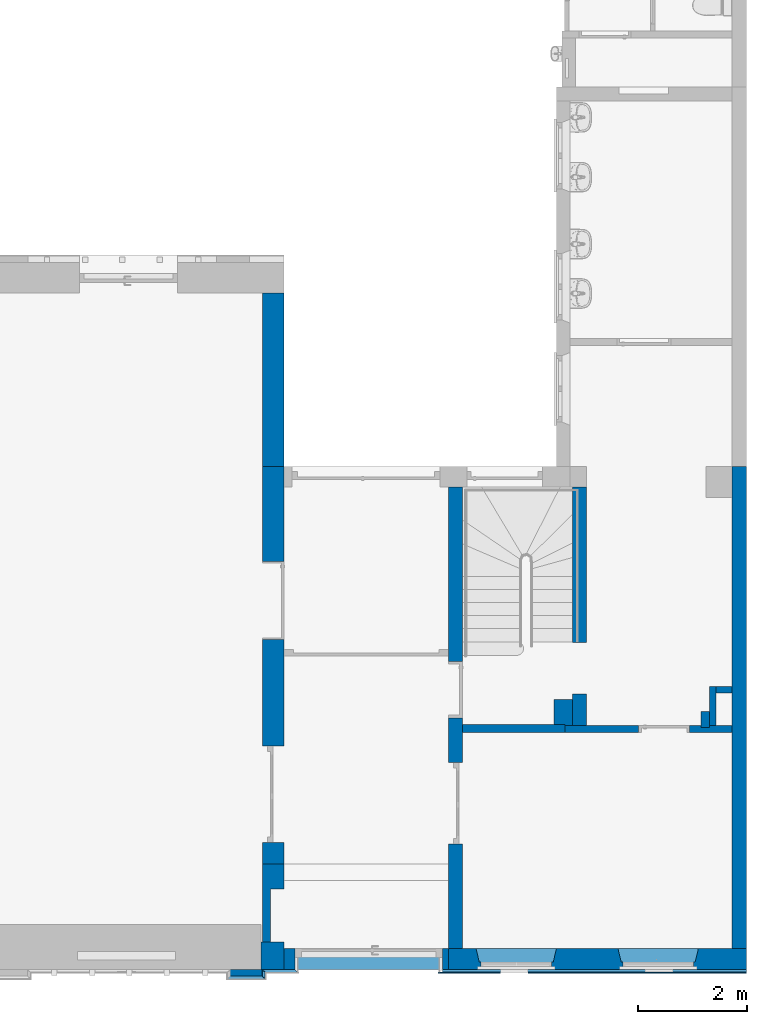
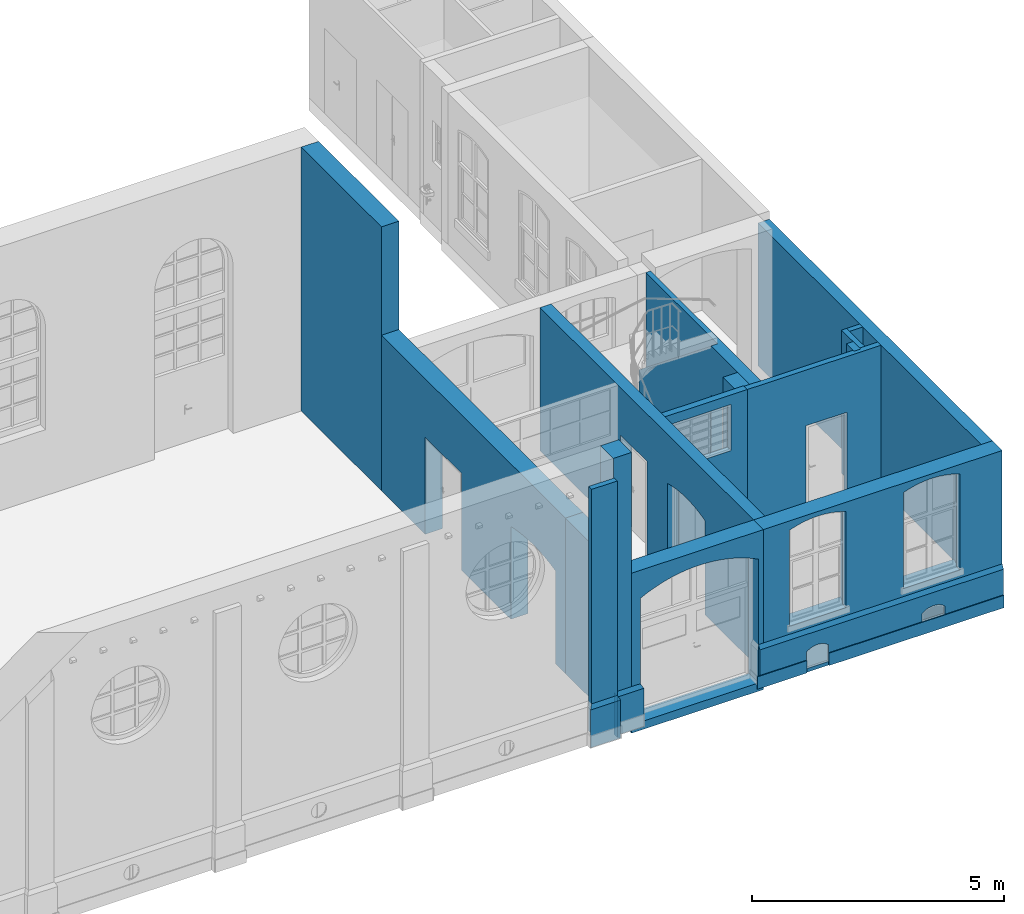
"""IFC4 building model written with IfcOpenShell, lengths in metres."""

from ifc_helpers import new_model, entity, si_unit, converted_unit, derived_unit, frame, frame_2d, origin, origin_with_axes, place, context, subcontext, project, spatial, polyline, rectangle, outline, extrude, clip, halfspace, material, layer, layer_set, layer_usage, element, save


model = new_model("IFC4")

# Units and contexts
model_context = context("Model", 3, precision=1e-05, world=origin())
body_context = subcontext(model_context, "Body", "Model", "MODEL_VIEW")
ifc_project = project(units=[si_unit("LENGTHUNIT", "METRE"), si_unit("AREAUNIT", "SQUARE_METRE"), si_unit("VOLUMEUNIT", "CUBIC_METRE"), si_unit("MASSUNIT", "GRAM", prefix="KILO"), converted_unit("PLANEANGLEUNIT", "DEGREE", entity("IfcPlaneAngleMeasure", 0.0174532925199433), si_unit("PLANEANGLEUNIT", "RADIAN"), dimensions=[0, 0, 0, 0, 0, 0, 0]), derived_unit("THERMALTRANSMITTANCEUNIT", [(si_unit("POWERUNIT", "WATT"), 1), (si_unit("THERMODYNAMICTEMPERATUREUNIT", "KELVIN"), -1), (si_unit("LENGTHUNIT", "METRE"), -2)]), derived_unit("VOLUMETRICFLOWRATEUNIT", [(si_unit("LENGTHUNIT", "METRE"), 3), (converted_unit("TIMEUNIT", "hour", entity("IfcTimeMeasure", 3600.0), si_unit("TIMEUNIT", "SECOND"), dimensions=[0, 0, 1, 0, 0, 0, 0]), -1), (si_unit("LENGTHUNIT", "METRE"), -1)])], contexts=[model_context])

# Building, storeys
building_placement = place(None, origin())
building = spatial("IfcBuilding", under=ifc_project, at=building_placement, Name="Bestandsgebäude A - Sporthalle / Wohnhaus (TB 100-499)   ANPASSEN !!!", CompositionType="ELEMENT")
storey_1_placement = place(building_placement, origin())
storey_1 = spatial("IfcBuildingStorey", under=building, at=storey_1_placement, Name="Geb. A Erdgeschoss (TB 200-249)", CompositionType="ELEMENT", Elevation=0.0)
storey_2_placement = place(storey_1_placement, origin())
storey_2 = spatial("IfcBuildingStorey", under=storey_1, at=storey_2_placement, Name="Architektur (TB 200-209)", CompositionType="PARTIAL")

# Walls
ifc_material_1 = material(Name="concrete")
ifc_layer_1 = layer(ifc_material_1, 0.4)
ifc_layer_set_1 = layer_set([ifc_layer_1])
ifc_layer_usage_1 = layer_usage(ifc_layer_set_1, "AXIS2", "POSITIVE", 0.0)
wall_1_placement = place(storey_2_placement, frame((-8.5, 9.25, 0.0), z_axis=(0.0, 0.0, 1.0), x_axis=(0.0, 1.0, 0.0)))
element("IfcWall", 1, at=wall_1_placement, inside=storey_2, material=ifc_layer_usage_1, Name="reinforced - bearing", PredefinedType="USERDEFINED", context=body_context, shape_type="SweptSolid", body=[
    extrude(rectangle(XDim=3.19, YDim=0.4, at=frame_2d((1.595, 0.2), x_axis=(1.0, 0.0))), origin_with_axes(), (0.0, 0.0, 1.0), 6.4),
])
ifc_material_2 = material(Name="concrete")
ifc_layer_2 = layer(ifc_material_2, 0.51)
ifc_layer_set_2 = layer_set([ifc_layer_2])
ifc_layer_usage_2 = layer_usage(ifc_layer_set_2, "AXIS2", "POSITIVE", 0.0)
wall_2_placement = place(storey_2_placement, frame((-8.92000000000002, 0.0, 0.0), z_axis=(0.0, 0.0, 1.0), x_axis=(1.0, -6.69258999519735e-16, 0.0)))
element("IfcWall", 2, at=wall_2_placement, inside=storey_2, material=ifc_layer_usage_2, Name="reinforced - bearing", PredefinedType="USERDEFINED", context=body_context, shape_type="SweptSolid", body=[
    extrude(rectangle(XDim=0.420000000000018, YDim=0.51, at=frame_2d((0.210000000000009, 0.255), x_axis=(1.0, 0.0))), origin_with_axes(), (0.0, 0.0, 1.0), 6.4),
])

# Wall, openings
ifc_material_3 = material(Name="concrete")
ifc_layer_3 = layer(ifc_material_3, 0.4)
ifc_layer_set_3 = layer_set([ifc_layer_3])
ifc_layer_usage_3 = layer_usage(ifc_layer_set_3, "AXIS2", "POSITIVE", 0.0)
wall_3_placement = place(storey_2_placement, frame((-8.5, 1.94, 0.0), z_axis=(0.0, 0.0, 1.0), x_axis=(0.0, 1.0, 0.0)))
wall_3 = element("IfcWall", 3, at=wall_3_placement, inside=storey_2, material=ifc_layer_usage_3, Name="reinforced - bearing", PredefinedType="USERDEFINED", context=body_context, shape_type="SweptSolid", body=[
    extrude(rectangle(XDim=7.31, YDim=0.4, at=frame_2d((3.655, 0.2), x_axis=(1.0, 0.0))), origin_with_axes(), (0.0, 0.0, 1.0), 3.77),
])
opening_1_placement = place(wall_3_placement, frame((5.56999999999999, 0.4, 0.0), z_axis=(0.0, -1.0, 0.0), x_axis=(0.0, 0.0, 1.0)))
element("IfcOpeningElement", 4, at=opening_1_placement, cuts=wall_3, Name="Door opening", PredefinedType="OPENING", context=body_context, shape_type="SweptSolid", body=[
    extrude(outline(polyline([(2.35, 1.44), (2.35, 0.0), (0.0, 0.0), (0.0, 1.44), (2.35, 1.44)])), origin_with_axes(), (0.0, 0.0, 1.0), 0.4),
])
opening_2_placement = place(wall_3_placement, frame((2.17, 0.4, 0.0), z_axis=(0.0, -1.0, 0.0), x_axis=(0.0, 0.0, 1.0)))
element("IfcOpeningElement", 5, at=opening_2_placement, cuts=wall_3, Name="Door opening", PredefinedType="OPENING", context=body_context, shape_type="SweptSolid", body=[
    extrude(outline(polyline([(2.25, 1.77), (2.2628414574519, 1.71190189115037), (2.27480989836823, 1.65361767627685), (2.28590262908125, 1.5951604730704), (2.29611715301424, 1.5365434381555), (2.30545117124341, 1.47777976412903), (2.31390258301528, 1.41888267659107), (2.32146948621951, 1.35986543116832), (2.32815017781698, 1.30074131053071), (2.33394315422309, 1.24152362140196), (2.33884711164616, 1.1822256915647), (2.34286094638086, 1.12286086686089), (2.34598375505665, 1.06344250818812), (2.34821483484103, 1.00398398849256), (2.3495536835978, 0.944498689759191), (2.35, 0.884999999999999), (2.3495536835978, 0.825501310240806), (2.34821483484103, 0.766016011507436), (2.34598375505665, 0.706557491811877), (2.34286094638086, 0.647139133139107), (2.33884711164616, 0.587774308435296), (2.33394315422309, 0.528476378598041), (2.32815017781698, 0.469258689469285), (2.32146948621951, 0.410134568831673), (2.31390258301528, 0.351117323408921), (2.30545117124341, 0.292220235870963), (2.29611715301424, 0.233456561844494), (2.28590262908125, 0.174839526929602), (2.27480989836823, 0.116382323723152), (2.2628414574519, 0.0580981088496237), (2.25, 0.0), (0.0, 0.0), (0.0, 1.77), (2.25, 1.77)])), origin_with_axes(), (0.0, 0.0, 1.0), 0.4),
])

# Wall, opening
ifc_material_4 = material(Name="concrete")
ifc_layer_4 = layer(ifc_material_4, 0.4)
ifc_layer_set_4 = layer_set([ifc_layer_4])
ifc_layer_usage_4 = layer_usage(ifc_layer_set_4, "AXIS2", "POSITIVE", 0.0)
wall_4_placement = place(storey_2_placement, frame((-8.5, 0.51, 0.0), z_axis=(0.0, 0.0, 1.0), x_axis=(0.0, 1.0, 0.0)))
wall_4 = element("IfcWall", 6, at=wall_4_placement, inside=storey_2, material=ifc_layer_usage_4, Name="reinforced - bearing", PredefinedType="USERDEFINED", context=body_context, shape_type="SweptSolid", body=[
    extrude(rectangle(XDim=1.43, YDim=0.4, at=frame_2d((0.715, 0.2), x_axis=(1.0, 0.0))), origin_with_axes(), (0.0, 0.0, 1.0), 3.77),
])
opening_3_placement = place(wall_4_placement, frame((0.0, 0.0, 0.0), z_axis=(0.0, 1.0, 0.0), x_axis=(0.0, 0.0, 1.0)))
element("IfcOpeningElement", 7, at=opening_3_placement, cuts=wall_4, Name="Wall Niche", ObjectType="Opening", context=body_context, shape_type="SweptSolid", body=[
    extrude(outline(polyline([(2.4, 0.97), (2.4, 0.0), (0.0, 0.0), (0.0, 0.97), (2.4, 0.97)])), origin_with_axes(), (0.0, 0.0, 1.0), 0.25),
])

# Wall, openings
ifc_material_5 = material(Name="masonry")
ifc_layer_5 = layer(ifc_material_5, 0.26)
ifc_layer_set_5 = layer_set([ifc_layer_5])
ifc_layer_usage_5 = layer_usage(ifc_layer_set_5, "AXIS2", "POSITIVE", 0.0)
wall_5_placement = place(storey_2_placement, frame((-5.48, 8.88, 0.0), z_axis=(0.0, 0.0, 1.0), x_axis=(0.0, -1.0, 0.0)))
wall_5 = element("IfcWall", 8, at=wall_5_placement, inside=storey_2, material=ifc_layer_usage_5, Name="masonry load-bearing", PredefinedType="USERDEFINED", context=body_context, shape_type="SweptSolid", body=[
    extrude(rectangle(XDim=8.49, YDim=0.26, at=frame_2d((4.245, 0.13), x_axis=(1.0, 0.0))), origin_with_axes(), (0.0, 0.0, 1.0), 3.47),
])
opening_4_placement = place(wall_5_placement, frame((3.21, 0.0, 0.0), z_axis=(0.0, 1.0, 0.0), x_axis=(0.0, 0.0, 1.0)))
element("IfcOpeningElement", 9, at=opening_4_placement, cuts=wall_5, Name="Door opening", PredefinedType="OPENING", context=body_context, shape_type="SweptSolid", body=[
    extrude(outline(polyline([(2.32, 1.04), (2.32, 0.0), (0.0, 0.0), (0.0, 1.04), (2.32, 1.04)])), origin_with_axes(), (0.0, 0.0, 1.0), 0.26),
])
opening_5_placement = place(wall_5_placement, frame((5.07, 0.0, 0.0), z_axis=(0.0, 1.0, 0.0), x_axis=(0.0, 0.0, 1.0)))
element("IfcOpeningElement", 10, at=opening_5_placement, cuts=wall_5, Name="Door opening", PredefinedType="OPENING", context=body_context, shape_type="SweptSolid", body=[
    extrude(outline(polyline([(2.28, 1.5), (2.29282303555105, 1.45106226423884), (2.30477921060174, 1.40190555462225), (2.31586479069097, 1.35254522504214), (2.32607631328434, 1.30299669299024), (2.33541058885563, 1.25327543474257), (2.34386470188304, 1.20339698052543), (2.35143601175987, 1.1533769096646), (2.35812215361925, 1.10323084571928), (2.36392103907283, 1.05297445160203), (2.36883085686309, 1.00262342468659), (2.37285007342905, 0.952193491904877), (2.3759774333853, 0.901700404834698), (2.37821195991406, 0.851159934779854), (2.37955295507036, 0.800587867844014), (2.38, 0.75), (2.37955295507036, 0.699412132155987), (2.37821195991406, 0.648840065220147), (2.3759774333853, 0.598299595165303), (2.37285007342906, 0.547806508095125), (2.36883085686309, 0.497376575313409), (2.36392103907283, 0.447025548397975), (2.35812215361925, 0.396769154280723), (2.35143601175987, 0.346623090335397), (2.34386470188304, 0.296603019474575), (2.33541058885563, 0.246724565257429), (2.32607631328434, 0.197003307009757), (2.31586479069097, 0.147454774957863), (2.30477921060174, 0.098094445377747), (2.29282303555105, 0.0489377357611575), (2.28, 0.0), (0.0, 0.0), (0.0, 1.5), (2.28, 1.5)])), origin_with_axes(), (0.0, 0.0, 1.0), 0.26),
])

# Wall, opening
ifc_material_6 = material(Name="masonry")
ifc_layer_6 = layer(ifc_material_6, 0.15)
ifc_layer_set_6 = layer_set([ifc_layer_6])
ifc_layer_usage_6 = layer_usage(ifc_layer_set_6, "AXIS2", "POSITIVE", 0.0)
wall_6_placement = place(storey_2_placement, frame((-5.21999999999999, 4.36, 0.0)))
wall_6 = element("IfcWall", 11, at=wall_6_placement, inside=storey_2, material=ifc_layer_usage_6, Name="masonry load-bearing", PredefinedType="USERDEFINED", context=body_context, shape_type="SweptSolid", body=[
    extrude(rectangle(XDim=1.89, YDim=0.15, at=frame_2d((0.945, 0.075), x_axis=(1.0, 0.0))), origin_with_axes(), (0.0, 0.0, 1.0), 3.47),
])
opening_6_placement = place(wall_6_placement, frame((1.51956840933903, 0.15, 2.12), z_axis=(0.0, -1.0, 0.0), x_axis=(0.0, 0.0, 1.0)))
element("IfcOpeningElement", 12, at=opening_6_placement, cuts=wall_6, Name="Window opening", PredefinedType="OPENING", context=body_context, shape_type="SweptSolid", body=[
    extrude(outline(polyline([(1.12, 1.35), (1.12, 0.0), (0.0, 0.0), (0.0, 1.35), (1.12, 1.35)])), origin_with_axes(), (0.0, 0.0, 1.0), 0.15),
])

# Wall
ifc_material_7 = material(Name="masonry")
ifc_layer_7 = layer(ifc_material_7, 0.34)
ifc_layer_set_7 = layer_set([ifc_layer_7])
ifc_layer_usage_7 = layer_usage(ifc_layer_set_7, "AXIS2", "POSITIVE", 0.0)
wall_7_placement = place(storey_2_placement, frame((-3.19999999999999, 4.49, 0.0), z_axis=(0.0, 0.0, 1.0), x_axis=(-1.51582450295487e-14, 1.0, 0.0)))
element("IfcWall", 13, at=wall_7_placement, inside=storey_2, material=ifc_layer_usage_7, Name="masonry load-bearing", PredefinedType="USERDEFINED", context=body_context, shape_type="SweptSolid", body=[
    extrude(outline(polyline([(0.0, -0.340000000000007), (0.479999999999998, -0.340000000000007), (0.479999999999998, 0.0), (0.02, 0.0), (0.0199999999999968, -0.210000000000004), (0.0, -0.210000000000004), (0.0, -0.340000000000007)])), frame((0.0, 0.340000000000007, 0.0), z_axis=(0.0, 0.0, 1.0), x_axis=(1.0, 0.0, 0.0)), (0.0, 0.0, 1.0), 3.47),
])

# Wall, opening
ifc_material_8 = material(Name="masonry")
ifc_layer_8 = layer(ifc_material_8, 0.13)
ifc_layer_set_8 = layer_set([ifc_layer_8])
ifc_layer_usage_8 = layer_usage(ifc_layer_set_8, "AXIS2", "POSITIVE", 0.0)
wall_8_placement = place(storey_2_placement, frame((-3.32999999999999, 4.36, 0.0)))
wall_8 = element("IfcWall", 14, at=wall_8_placement, inside=storey_2, material=ifc_layer_usage_8, Name="masonry load-bearing", PredefinedType="USERDEFINED", context=body_context, shape_type="SweptSolid", body=[
    extrude(outline(polyline([(0.0, 0.0), (3.06999999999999, 0.0), (3.06999999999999, 0.13), (2.64999999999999, 0.13), (2.64999999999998, 0.0900000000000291), (2.49999999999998, 0.0900000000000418), (2.49999999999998, 0.13), (0.0, 0.13), (0.0, 0.0)])), origin_with_axes(), (0.0, 0.0, 1.0), 3.47),
])
opening_7_placement = place(wall_8_placement, frame((1.35000000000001, 0.0, 0.0), z_axis=(0.0, 1.0, 0.0), x_axis=(0.0, 0.0, 1.0)))
element("IfcOpeningElement", 15, at=opening_7_placement, cuts=wall_8, Name="Door opening", PredefinedType="OPENING", context=body_context, shape_type="SweptSolid", body=[
    extrude(outline(polyline([(2.12, 0.94), (2.12, 0.0), (0.0, 0.0), (0.0, 0.94), (2.12, 0.94)])), origin_with_axes(), (0.0, 0.0, 1.0), 0.13),
])

# Walls
ifc_material_9 = material(Name="masonry")
ifc_layer_9 = layer(ifc_material_9, 0.15)
ifc_layer_set_9 = layer_set([ifc_layer_9])
ifc_layer_usage_9 = layer_usage(ifc_layer_set_9, "AXIS2", "POSITIVE", 0.0)
wall_9_placement = place(storey_2_placement, frame((-0.68000000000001, 4.45000000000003, 0.0), z_axis=(0.0, 0.0, 1.0), x_axis=(8.1854523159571e-14, 1.0, 0.0)))
element("IfcWall", 16, at=wall_9_placement, inside=storey_2, material=ifc_layer_usage_9, Name="masonry load-bearing", PredefinedType="USERDEFINED", context=body_context, shape_type="SweptSolid", body=[
    extrude(rectangle(XDim=0.299999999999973, YDim=0.15, at=frame_2d((0.149999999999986, 0.075), x_axis=(1.0, 0.0))), origin_with_axes(), (0.0, 0.0, 1.0), 3.47),
])
ifc_material_10 = material(Name="masonry")
ifc_layer_10 = layer(ifc_material_10, 0.12)
ifc_layer_set_10 = layer_set([ifc_layer_10])
ifc_layer_usage_10 = layer_usage(ifc_layer_set_10, "AXIS2", "POSITIVE", 0.0)
wall_10_placement = place(storey_2_placement, frame((-0.680000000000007, 5.21, 0.0), z_axis=(0.0, 0.0, 1.0), x_axis=(-1.57898385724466e-16, -1.0, 0.0)))
element("IfcWall", 17, at=wall_10_placement, inside=storey_2, material=ifc_layer_usage_10, Name="masonry load-bearing", PredefinedType="USERDEFINED", context=body_context, shape_type="SweptSolid", body=[
    extrude(rectangle(XDim=0.720000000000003, YDim=0.12, at=frame_2d((0.360000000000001, 0.06), x_axis=(1.0, 0.0))), origin_with_axes(), (0.0, 0.0, 1.0), 3.47),
])
ifc_material_11 = material(Name="masonry")
ifc_layer_11 = layer(ifc_material_11, 0.12)
ifc_layer_set_11 = layer_set([ifc_layer_11])
ifc_layer_usage_11 = layer_usage(ifc_layer_set_11, "AXIS2", "POSITIVE", 0.0)
wall_11_placement = place(storey_2_placement, frame((-0.260000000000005, 5.21, 0.0), z_axis=(0.0, 0.0, 1.0), x_axis=(-1.0, 0.0, 0.0)))
element("IfcWall", 18, at=wall_11_placement, inside=storey_2, material=ifc_layer_usage_11, Name="masonry load-bearing", PredefinedType="USERDEFINED", context=body_context, shape_type="SweptSolid", body=[
    extrude(rectangle(XDim=0.300000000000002, YDim=0.12, at=frame_2d((0.150000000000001, 0.06), x_axis=(1.0, 0.0))), origin_with_axes(), (0.0, 0.0, 1.0), 3.47),
])

# Wall, openings
ifc_material_12 = material(Name="masonry")
ifc_layer_12 = layer(ifc_material_12, 0.26)
ifc_layer_set_12 = layer_set([ifc_layer_12])
ifc_layer_usage_12 = layer_usage(ifc_layer_set_12, "AXIS2", "POSITIVE", 0.0)
wall_12_placement = place(storey_2_placement, frame((-2.93999999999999, 4.49, 0.0), z_axis=(0.0, 0.0, 1.0), x_axis=(-3.10761287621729e-15, 1.0, 0.0)))
wall_12 = element("IfcWall", 19, at=wall_12_placement, inside=storey_2, material=ifc_layer_usage_12, Name="masonry load-bearing", PredefinedType="USERDEFINED", context=body_context, shape_type="SweptSolid", body=[
    extrude(rectangle(XDim=4.39, YDim=0.26, at=frame_2d((2.195, 0.13), x_axis=(1.0, 0.0))), origin_with_axes(), (0.0, 0.0, 1.0), 3.47),
])
opening_8_placement = place(wall_12_placement, frame((4.39, 0.26, 1.16625000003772), z_axis=(-6.06329801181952e-15, -1.0, 0.0), x_axis=(0.0, 0.0, 1.0)))
element("IfcOpeningElement", 20, at=opening_8_placement, cuts=wall_12, Name="Wall Niche", ObjectType="Opening", context=body_context, shape_type="SweptSolid", body=[
    extrude(outline(polyline([(2.50374999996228, 2.85), (2.50374999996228, 0.0), (0.0, 0.0), (2.29374999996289, 2.85), (2.50374999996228, 2.85)])), origin_with_axes(), (0.0, 0.0, 1.0), 0.15),
])
opening_9_placement = place(wall_12_placement, frame((1.53, 0.26, 0.0), z_axis=(0.0, -1.0, 0.0), x_axis=(0.0, 0.0, 1.0)))
element("IfcOpeningElement", 21, at=opening_9_placement, cuts=wall_12, Name="Door opening", PredefinedType="OPENING", context=body_context, shape_type="SweptSolid", body=[
    extrude(outline(polyline([(2.28, 0.949999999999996), (2.28, 0.0), (0.0, 0.0), (0.0, 0.949999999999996), (2.28, 0.949999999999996)])), origin_with_axes(), (0.0, 0.0, 1.0), 0.26),
])

# Walls
ifc_material_13 = material(Name="concrete")
ifc_layer_13 = layer(ifc_material_13, 0.05)
ifc_layer_set_13 = layer_set([ifc_layer_13])
ifc_layer_usage_13 = layer_usage(ifc_layer_set_13, "AXIS2", "POSITIVE", 0.0)
wall_13_placement = place(storey_2_placement, frame((-8.90000000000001, 0.0, -0.3), z_axis=(0.0, 0.0, 1.0), x_axis=(0.0, -1.0, 0.0)))
element("IfcWall", 22, at=wall_13_placement, inside=storey_2, material=ifc_layer_usage_13, Name="reinforced - bearing", PredefinedType="USERDEFINED", context=body_context, shape_type="Clipping", body=[
    clip(extrude(outline(polyline([(-0.170000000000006, 0.0), (-0.050000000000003, 0.0), (0.0, 0.05), (-0.119999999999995, 0.05), (-0.170000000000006, 0.0)])), frame((0.170000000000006, 0.0, 0.0), z_axis=(0.0, 0.0, 1.0), x_axis=(1.0, 0.0, 0.0)), (0.0, 0.0, 1.0), 1.01999999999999), halfspace(frame((0.0850000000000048, 0.025, 0.969999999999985), z_axis=(8.30424224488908e-16, -0.894427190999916, -0.447213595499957), x_axis=(1.0, 0.0, 1.89478062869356e-15)), True)),
])
ifc_material_14 = material(Name="concrete")
ifc_layer_14 = layer(ifc_material_14, 0.05)
ifc_layer_set_14 = layer_set([ifc_layer_14])
ifc_layer_usage_14 = layer_usage(ifc_layer_set_14, "AXIS2", "POSITIVE", 0.0)
wall_14_placement = place(storey_2_placement, frame((-8.90000000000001, -0.120000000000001, -0.3), z_axis=(0.0, 0.0, 1.0), x_axis=(-1.0, 5.05810083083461e-16, 0.0)))
element("IfcWall", 23, at=wall_14_placement, inside=storey_2, material=ifc_layer_usage_14, Name="reinforced - bearing", PredefinedType="USERDEFINED", context=body_context, shape_type="Clipping", body=[
    clip(extrude(outline(polyline([(-0.64, -0.0500000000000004), (-0.05, -0.0500000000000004), (0.0, 0.0), (-0.689999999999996, 0.0), (-0.64, -0.0500000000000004)])), frame((0.64, 0.0500000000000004, 0.0), z_axis=(0.0, 0.0, 1.0), x_axis=(1.0, 0.0, 0.0)), (0.0, 0.0, 1.0), 1.02), halfspace(frame((0.295, 0.025, 0.97), z_axis=(3.63237665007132e-16, -0.894427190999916, -0.447213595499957), x_axis=(1.0, 0.0, 9.63447777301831e-16)), True)),
])
ifc_material_15 = material(Name="concrete")
ifc_layer_15 = layer(ifc_material_15, 0.12)
ifc_layer_set_15 = layer_set([ifc_layer_15])
ifc_layer_usage_15 = layer_usage(ifc_layer_set_15, "AXIS2", "POSITIVE", 0.0)
wall_15_placement = place(storey_2_placement, frame((-9.49000000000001, -0.119999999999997, 0.0)))
element("IfcWall", 24, at=wall_15_placement, inside=storey_2, material=ifc_layer_usage_15, Name="reinforced - bearing", PredefinedType="USERDEFINED", context=body_context, shape_type="SweptSolid", body=[
    extrude(rectangle(XDim=0.590000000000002, YDim=0.12, at=frame_2d((0.295000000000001, 0.06), x_axis=(1.0, 0.0))), origin_with_axes(), (0.0, 0.0, 1.0), 5.92),
])
ifc_material_16 = material(Name="concrete")
ifc_layer_16 = layer(ifc_material_16, 0.05)
ifc_layer_set_16 = layer_set([ifc_layer_16])
ifc_layer_usage_16 = layer_usage(ifc_layer_set_16, "AXIS2", "POSITIVE", 0.0)
wall_16_placement = place(storey_2_placement, frame((-8.3, 0.0, -0.3), z_axis=(0.0, 0.0, 1.0), x_axis=(-1.0, 4.89858719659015e-16, 0.0)))
element("IfcWall", 25, at=wall_16_placement, inside=storey_2, material=ifc_layer_usage_16, Name="reinforced - bearing", PredefinedType="USERDEFINED", context=body_context, shape_type="Clipping", body=[
    clip(extrude(outline(polyline([(-0.600000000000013, -0.0500000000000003), (0.0, -0.0500000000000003), (-0.0500000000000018, 0.0), (-0.649999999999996, 0.0), (-0.600000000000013, -0.0500000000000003)])), frame((0.600000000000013, 0.0500000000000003, 0.0), z_axis=(0.0, 0.0, 1.0), x_axis=(1.0, 0.0, 0.0)), (0.0, 0.0, 1.0), 1.02000000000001), halfspace(frame((0.275000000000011, 0.025, 0.970000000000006), z_axis=(6.8065013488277e-16, -0.894427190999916, -0.447213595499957), x_axis=(1.0, -1.60000590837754e-18, 1.51582450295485e-15)), True)),
])
ifc_material_17 = material(Name="concrete")
ifc_layer_17 = layer(ifc_material_17, 0.26)
ifc_layer_set_17 = layer_set([ifc_layer_17])
ifc_layer_usage_17 = layer_usage(ifc_layer_set_17, "AXIS2", "POSITIVE", 0.0)
wall_17_placement = place(storey_2_placement, frame((0.0, 0.389999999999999, 0.0), z_axis=(0.0, 0.0, 1.0), x_axis=(2.4492935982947e-16, 1.0, 0.0)))
element("IfcWall", 26, at=wall_17_placement, inside=storey_2, material=ifc_layer_usage_17, Name="reinforced - bearing", PredefinedType="USERDEFINED", context=body_context, shape_type="SweptSolid", body=[
    extrude(rectangle(XDim=8.86, YDim=0.26, at=frame_2d((4.43, 0.13), x_axis=(1.0, 0.0))), origin_with_axes(), (0.0, 0.0, 1.0), 3.47),
])

# Wall, opening
ifc_material_18 = material(Name="concrete")
ifc_layer_18 = layer(ifc_material_18, 0.39)
ifc_layer_set_18 = layer_set([ifc_layer_18])
ifc_layer_usage_18 = layer_usage(ifc_layer_set_18, "AXIS2", "POSITIVE", 0.0)
wall_18_placement = place(storey_2_placement, frame((-8.5, 0.0, -0.41), z_axis=(0.0, 0.0, 1.0), x_axis=(1.0, -3.67027395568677e-16, 0.0)))
wall_18 = element("IfcWall", 27, at=wall_18_placement, inside=storey_2, material=ifc_layer_usage_18, Name="reinforced - bearing", PredefinedType="USERDEFINED", context=body_context, shape_type="SweptSolid", body=[
    extrude(rectangle(XDim=3.02, YDim=0.39, at=frame_2d((1.51, 0.195), x_axis=(1.0, 0.0))), origin_with_axes(), (0.0, 0.0, 1.0), 3.88),
])
opening_10_placement = place(wall_18_placement, frame((0.200000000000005, 0.0, 0.2), z_axis=(-3.64380890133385e-16, 1.0, 0.0), x_axis=(0.0, 0.0, 1.0)))
element("IfcOpeningElement", 28, at=opening_10_placement, cuts=wall_18, Name="Door opening", PredefinedType="OPENING", context=body_context, shape_type="SweptSolid", body=[
    extrude(outline(polyline([(3.0, 2.71), (3.04182511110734, 2.62597406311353), (3.08095304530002, 2.54065874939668), (3.1173441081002, 2.45414060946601), (3.15096138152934, 2.36650741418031), (3.18177076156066, 2.27784806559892), (3.20974099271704, 2.18825250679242), (3.23484369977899, 2.09781163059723), (3.25705341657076, 2.00661718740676), (3.27634761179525, 1.91476169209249), (3.2927067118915, 1.82233833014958), (3.30611412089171, 1.72944086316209), (3.31655623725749, 1.63616353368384), (3.32402246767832, 1.54260096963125), (3.32850523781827, 1.44884808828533), (3.33, 1.355), (3.32850523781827, 1.26115191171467), (3.32402246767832, 1.16739903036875), (3.31655623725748, 1.07383646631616), (3.30611412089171, 0.980559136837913), (3.2927067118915, 0.887661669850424), (3.27634761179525, 0.795238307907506), (3.25705341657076, 0.703382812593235), (3.23484369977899, 0.612188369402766), (3.20974099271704, 0.521747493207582), (3.18177076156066, 0.43215193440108), (3.15096138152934, 0.343492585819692), (3.1173441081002, 0.255859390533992), (3.08095304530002, 0.169341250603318), (3.04182511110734, 0.0840259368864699), (3.0, 0.0), (0.0, 0.0), (0.0, 2.71), (3.0, 2.71)])), origin_with_axes(), (0.0, 0.0, 1.0), 0.39),
])

# Wall, openings
ifc_material_19 = material(Name="concrete")
ifc_layer_19 = layer(ifc_material_19, 0.39)
ifc_layer_set_19 = layer_set([ifc_layer_19])
ifc_layer_usage_19 = layer_usage(ifc_layer_set_19, "AXIS2", "POSITIVE", 0.0)
wall_19_placement = place(storey_2_placement, frame((-5.48, 0.0, -0.21), z_axis=(0.0, 0.0, 1.0), x_axis=(1.0, -3.67027395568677e-16, 0.0)))
wall_19 = element("IfcWall", 29, at=wall_19_placement, inside=storey_2, material=ifc_layer_usage_19, Name="reinforced - bearing", PredefinedType="USERDEFINED", context=body_context, shape_type="SweptSolid", body=[
    extrude(rectangle(XDim=5.47999999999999, YDim=0.39, at=frame_2d((2.74, 0.195), x_axis=(1.0, 0.0))), origin_with_axes(), (0.0, 0.0, 1.0), 3.68),
])
opening_11_placement = place(wall_19_placement, frame((3.21, 0.0, 1.12), z_axis=(0.0, 1.0, 0.0), x_axis=(0.0, 0.0, 1.0)))
element("IfcOpeningElement", 30, at=opening_11_placement, cuts=wall_19, Name="Window opening", PredefinedType="OPENING", context=body_context, shape_type="SweptSolid", body=[
    extrude(outline(polyline([(2.33, 1.3), (2.34531656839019, 1.25842115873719), (2.35961661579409, 1.21648184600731), (2.3728916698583, 1.17420690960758), (2.38513386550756, 1.1316213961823), (2.3963359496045, 1.08875053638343), (2.40649128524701, 1.04561972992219), (2.41559385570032, 1.00225453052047), (2.42363826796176, 0.958680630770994), (2.43061975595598, 0.914923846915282), (2.43653418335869, 0.871010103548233), (2.44137804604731, 0.826965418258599), (2.44514847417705, 0.782815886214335), (2.44784323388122, 0.738587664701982), (2.44946072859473, 0.694306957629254), (2.45, 0.65), (2.44946072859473, 0.605693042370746), (2.44784323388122, 0.561412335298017), (2.44514847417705, 0.517184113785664), (2.44137804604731, 0.4730345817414), (2.43653418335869, 0.428989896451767), (2.43061975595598, 0.385076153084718), (2.42363826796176, 0.341319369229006), (2.41559385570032, 0.297745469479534), (2.40649128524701, 0.254380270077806), (2.3963359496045, 0.211249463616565), (2.38513386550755, 0.168378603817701), (2.3728916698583, 0.125793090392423), (2.35961661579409, 0.0835181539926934), (2.34531656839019, 0.0415788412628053), (2.33, 0.0), (0.0, 0.0), (0.0, 1.3), (2.33, 1.3)])), origin_with_axes(), (0.0, 0.0, 1.0), 0.39),
])
opening_12_placement = place(wall_19_placement, frame((0.599999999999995, 0.0, 1.12), z_axis=(-2.91504712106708e-16, 1.0, 0.0), x_axis=(0.0, 0.0, 1.0)))
element("IfcOpeningElement", 31, at=opening_12_placement, cuts=wall_19, Name="Window opening", PredefinedType="OPENING", context=body_context, shape_type="SweptSolid", body=[
    extrude(outline(polyline([(2.33, 1.3), (2.34531656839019, 1.25842115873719), (2.35961661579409, 1.21648184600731), (2.3728916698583, 1.17420690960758), (2.38513386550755, 1.1316213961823), (2.3963359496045, 1.08875053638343), (2.40649128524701, 1.04561972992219), (2.41559385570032, 1.00225453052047), (2.42363826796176, 0.958680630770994), (2.43061975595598, 0.914923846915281), (2.43653418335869, 0.871010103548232), (2.44137804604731, 0.826965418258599), (2.44514847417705, 0.782815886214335), (2.44784323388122, 0.738587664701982), (2.44946072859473, 0.694306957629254), (2.45, 0.649999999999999), (2.44946072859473, 0.605693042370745), (2.44784323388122, 0.561412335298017), (2.44514847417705, 0.517184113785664), (2.44137804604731, 0.473034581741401), (2.43653418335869, 0.428989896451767), (2.43061975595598, 0.385076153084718), (2.42363826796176, 0.341319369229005), (2.41559385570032, 0.297745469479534), (2.40649128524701, 0.254380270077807), (2.3963359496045, 0.211249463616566), (2.38513386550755, 0.1683786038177), (2.3728916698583, 0.125793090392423), (2.35961661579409, 0.0835181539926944), (2.34531656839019, 0.0415788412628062), (2.33, 0.0), (0.0, 0.0), (0.0, 1.3), (2.33, 1.3)])), origin_with_axes(), (0.0, 0.0, 1.0), 0.39),
])
opening_13_placement = place(wall_19_placement, frame((4.6, 0.39, 1.12), z_axis=(0.0, 0.0, 1.0), x_axis=(-1.0, -3.84077154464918e-17, 0.0)))
element("IfcOpeningElement", 32, at=opening_13_placement, cuts=wall_19, Name="Wall Niche", ObjectType="Opening", context=body_context, shape_type="SweptSolid", body=[
    extrude(outline(polyline([(0.0, 0.0), (1.48, 0.0), (1.42, 0.24999999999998), (0.0600000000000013, 0.24999999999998), (0.0, 0.0)])), origin_with_axes(), (0.0, 0.0, 1.0), 2.45),
])
opening_14_placement = place(wall_19_placement, frame((1.99, 0.39, 1.12), z_axis=(0.0, 0.0, 1.0), x_axis=(-1.0, 0.0, 0.0)))
element("IfcOpeningElement", 33, at=opening_14_placement, cuts=wall_19, Name="Wall Niche", ObjectType="Opening", context=body_context, shape_type="SweptSolid", body=[
    extrude(outline(polyline([(0.0, 0.0), (1.48, 0.0), (1.42, 0.249999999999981), (0.0600000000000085, 0.249999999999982), (0.0, 0.0)])), origin_with_axes(), (0.0, 0.0, 1.0), 2.45),
])

# Wall
ifc_material_20 = material(Name="concrete")
ifc_layer_20 = layer(ifc_material_20, 0.02)
ifc_layer_set_20 = layer_set([ifc_layer_20])
ifc_layer_usage_20 = layer_usage(ifc_layer_set_20, "AXIS2", "POSITIVE", 0.0)
wall_20_placement = place(storey_2_placement, frame((0.0, -0.0500000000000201, -0.3), z_axis=(0.0, 0.0, 1.0), x_axis=(-1.0, 2.58305376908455e-15, 0.0)))
element("IfcWall", 34, at=wall_20_placement, inside=storey_2, material=ifc_layer_usage_20, Name="reinforced - bearing", PredefinedType="USERDEFINED", context=body_context, shape_type="SweptSolid", body=[
    extrude(rectangle(XDim=4.01064554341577, YDim=0.02, at=frame_2d((2.00532277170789, 0.01), x_axis=(1.0, 0.0))), origin_with_axes(), (0.0, 0.0, 1.0), 0.3),
])

# Wall, openings
ifc_material_21 = material(Name="concrete")
ifc_layer_21 = layer(ifc_material_21, 0.05)
ifc_layer_set_21 = layer_set([ifc_layer_21])
ifc_layer_usage_21 = layer_usage(ifc_layer_set_21, "AXIS2", "POSITIVE", 0.0)
wall_21_placement = place(storey_2_placement, frame((0.0, 0.0, -0.3), z_axis=(0.0, 0.0, 1.0), x_axis=(-1.0, 1.22464679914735e-16, 0.0)))
wall_21 = element("IfcWall", 35, at=wall_21_placement, inside=storey_2, material=ifc_layer_usage_21, Name="reinforced - bearing", PredefinedType="USERDEFINED", context=body_context, shape_type="Clipping", body=[
    clip(extrude(rectangle(XDim=5.58999999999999, YDim=0.05, at=frame_2d((2.795, 0.025), x_axis=(1.0, 0.0))), origin_with_axes(), (0.0, 0.0, 1.0), 1.02), halfspace(frame((2.795, 0.025, 0.97), z_axis=(1.2679392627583e-16, -0.894427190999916, -0.447213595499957), x_axis=(1.0, 4.394515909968e-19, 2.84725532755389e-16)), True)),
])
opening_15_placement = place(wall_21_placement, frame((4.01064554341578, 0.0, 0.09), z_axis=(0.0, 1.0, 0.0), x_axis=(0.0, 0.0, 1.0)))
element("IfcOpeningElement", 36, at=opening_15_placement, cuts=wall_21, Name="Window opening", PredefinedType="OPENING", context=body_context, shape_type="SweptSolid", body=[
    extrude(outline(polyline([(0.4, 0.5124393), (0.412364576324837, 0.498324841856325), (0.424013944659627, 0.483614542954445), (0.434919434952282, 0.468344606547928), (0.445054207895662, 0.452552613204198), (0.454393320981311, 0.436277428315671), (0.462913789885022, 0.419559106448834), (0.470594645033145, 0.402438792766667), (0.477416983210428, 0.384958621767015), (0.483364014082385, 0.367161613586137), (0.488421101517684, 0.349091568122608), (0.492575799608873, 0.330792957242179), (0.495817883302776, 0.312310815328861), (0.498139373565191, 0.29369062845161), (0.499534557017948, 0.27497822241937), (0.5, 0.25621965), (0.499534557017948, 0.23746107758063), (0.498139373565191, 0.21874867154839), (0.495817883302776, 0.200128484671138), (0.492575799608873, 0.181646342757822), (0.488421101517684, 0.163347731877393), (0.483364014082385, 0.145277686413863), (0.477416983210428, 0.127480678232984), (0.470594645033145, 0.110000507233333), (0.462913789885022, 0.0928801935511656), (0.454393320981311, 0.0761618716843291), (0.445054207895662, 0.0598866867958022), (0.434919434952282, 0.0440946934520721), (0.424013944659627, 0.0288247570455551), (0.412364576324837, 0.0141144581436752), (0.4, 0.0), (0.0, 0.0), (0.0, 0.5124393), (0.4, 0.5124393)])), origin_with_axes(), (0.0, 0.0, 1.0), 0.05),
])
opening_16_placement = place(wall_21_placement, frame((1.34725545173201, 0.0, 0.3), z_axis=(0.0, 1.0, 0.0), x_axis=(0.0, 0.0, 1.0)))
element("IfcOpeningElement", 37, at=opening_16_placement, cuts=wall_21, Name="Window opening", PredefinedType="OPENING", context=body_context, shape_type="SweptSolid", body=[
    extrude(outline(polyline([(0.2, 0.516638), (0.212372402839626, 0.502361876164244), (0.224027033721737, 0.487494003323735), (0.234935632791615, 0.472070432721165), (0.245071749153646, 0.456128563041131), (0.254410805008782, 0.439707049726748), (0.262930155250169, 0.422845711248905), (0.270609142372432, 0.405585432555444), (0.277429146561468, 0.387968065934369), (0.283373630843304, 0.370036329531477), (0.288428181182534, 0.351833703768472), (0.29258054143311, 0.333404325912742), (0.295820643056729, 0.314792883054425), (0.298140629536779, 0.296044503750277), (0.299534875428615, 0.277204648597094), (0.3, 0.258319), (0.299534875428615, 0.239433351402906), (0.298140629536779, 0.220593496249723), (0.295820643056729, 0.201845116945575), (0.29258054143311, 0.183233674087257), (0.288428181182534, 0.164804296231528), (0.283373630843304, 0.146601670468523), (0.277429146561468, 0.128669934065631), (0.270609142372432, 0.111052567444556), (0.262930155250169, 0.0937922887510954), (0.254410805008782, 0.0769309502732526), (0.245071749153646, 0.0605094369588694), (0.234935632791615, 0.0445675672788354), (0.224027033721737, 0.0291439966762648), (0.212372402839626, 0.0142761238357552), (0.2, 0.0), (0.0, 0.0), (0.0, 0.516638), (0.2, 0.516638)])), origin_with_axes(), (0.0, 0.0, 1.0), 0.05),
])

# Wall
ifc_material_22 = material(Name="concrete")
ifc_layer_22 = layer(ifc_material_22, 0.02)
ifc_layer_set_22 = layer_set([ifc_layer_22])
ifc_layer_usage_22 = layer_usage(ifc_layer_set_22, "AXIS2", "POSITIVE", 0.0)
wall_22_placement = place(storey_2_placement, frame((-4.52308488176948, -0.0500000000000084, -0.3), z_axis=(0.0, 0.0, 1.0), x_axis=(-1.0, 2.58114387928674e-15, 0.0)))
element("IfcWall", 38, at=wall_22_placement, inside=storey_2, material=ifc_layer_usage_22, Name="reinforced - bearing", PredefinedType="USERDEFINED", context=body_context, shape_type="SweptSolid", body=[
    extrude(rectangle(XDim=1.1369151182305, YDim=0.02, at=frame_2d((0.568457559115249, 0.01), x_axis=(1.0, 0.0))), origin_with_axes(), (0.0, 0.0, 1.0), 0.3),
])

save(model, "model.ifc")
